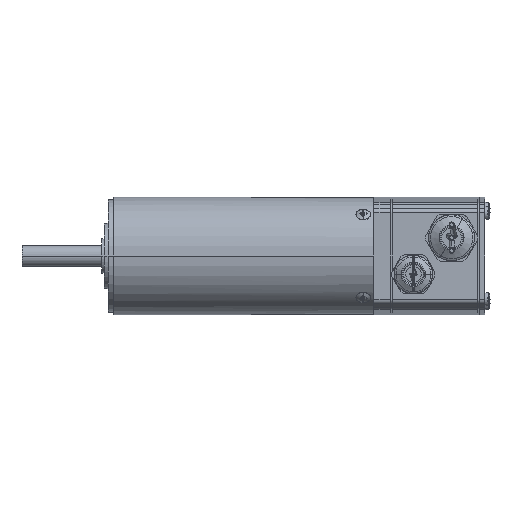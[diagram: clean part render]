
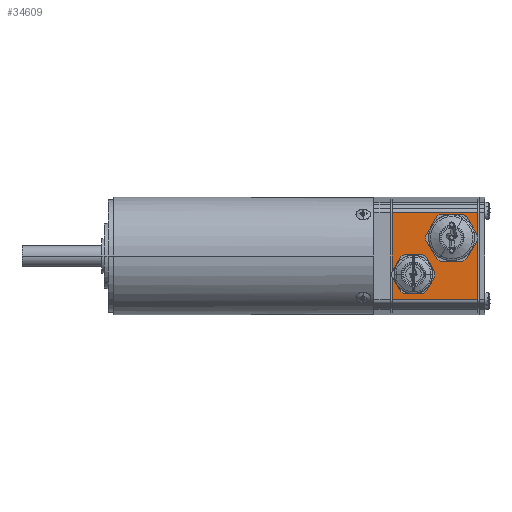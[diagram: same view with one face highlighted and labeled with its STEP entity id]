
A CAD part, front view. The second image highlights one B-rep face of the part: STEP entity #34609.
In plain terms, the highlighted planar face has unit normal (0, -1, 0).
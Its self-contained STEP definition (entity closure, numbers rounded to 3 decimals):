
#1523=DIRECTION('',(1.,0.,0.));
#1524=VECTOR('',#1523,32.6);
#1525=CARTESIAN_POINT('',(141.55,-37.5,16.5));
#1526=LINE('',#1525,#1524);
#1530=CARTESIAN_POINT('',(164.15,-37.5,7.));
#1531=DIRECTION('',(0.,-1.,0.));
#1532=DIRECTION('',(0.,0.,-1.));
#1533=AXIS2_PLACEMENT_3D('',#1530,#1531,#1532);
#1538=CARTESIAN_POINT('',(164.15,-37.5,7.));
#1539=DIRECTION('',(0.,-1.,0.));
#1540=DIRECTION('',(0.,0.,1.));
#1541=AXIS2_PLACEMENT_3D('',#1538,#1539,#1540);
#1546=CARTESIAN_POINT('',(149.55,-37.5,-7.));
#1547=DIRECTION('',(0.,-1.,0.));
#1548=DIRECTION('',(0.,0.,1.));
#1549=AXIS2_PLACEMENT_3D('',#1546,#1547,#1548);
#1554=CARTESIAN_POINT('',(149.55,-37.5,-7.));
#1555=DIRECTION('',(0.,-1.,0.));
#1556=DIRECTION('',(0.,0.,-1.));
#1557=AXIS2_PLACEMENT_3D('',#1554,#1555,#1556);
#1622=DIRECTION('',(0.,0.,-1.));
#1623=VECTOR('',#1622,33.);
#1624=CARTESIAN_POINT('',(141.55,-37.5,16.5));
#1625=LINE('',#1624,#1623);
#1760=DIRECTION('',(1.,0.,0.));
#1761=VECTOR('',#1760,32.6);
#1762=CARTESIAN_POINT('',(141.55,-37.5,-16.5));
#1763=LINE('',#1762,#1761);
#1842=DIRECTION('',(0.,0.,-1.));
#1843=VECTOR('',#1842,33.);
#1844=CARTESIAN_POINT('',(174.15,-37.5,16.5));
#1845=LINE('',#1844,#1843);
#31213=CARTESIAN_POINT('',(141.55,-37.5,16.5));
#31214=VERTEX_POINT('',#31213);
#31215=CARTESIAN_POINT('',(141.55,-37.5,-16.5));
#31216=VERTEX_POINT('',#31215);
#31249=CARTESIAN_POINT('',(174.15,-37.5,16.5));
#31250=VERTEX_POINT('',#31249);
#31251=CARTESIAN_POINT('',(174.15,-37.5,-16.5));
#31252=VERTEX_POINT('',#31251);
#31465=CARTESIAN_POINT('',(164.15,-37.5,-0.25));
#31466=CARTESIAN_POINT('',(164.15,-37.5,14.25));
#31467=VERTEX_POINT('',#31465);
#31468=VERTEX_POINT('',#31466);
#32781=CARTESIAN_POINT('',(149.55,-37.5,-1.45));
#32782=CARTESIAN_POINT('',(149.55,-37.5,-12.55));
#32783=VERTEX_POINT('',#32781);
#32784=VERTEX_POINT('',#32782);
#34583=CARTESIAN_POINT('',(141.55,-37.5,16.5));
#34584=DIRECTION('',(0.,-1.,0.));
#34585=DIRECTION('',(0.,0.,-1.));
#34586=AXIS2_PLACEMENT_3D('',#34583,#34584,#34585);
#34587=PLANE('',#34586);
#34589=ORIENTED_EDGE('',*,*,#34588,.F.);
#34591=ORIENTED_EDGE('',*,*,#34590,.T.);
#34593=ORIENTED_EDGE('',*,*,#34592,.T.);
#34595=ORIENTED_EDGE('',*,*,#34594,.F.);
#34596=EDGE_LOOP('',(#34589,#34591,#34593,#34595));
#34597=FACE_OUTER_BOUND('',#34596,.F.);
#34599=ORIENTED_EDGE('',*,*,#34598,.T.);
#34601=ORIENTED_EDGE('',*,*,#34600,.T.);
#34602=EDGE_LOOP('',(#34599,#34601));
#34603=FACE_BOUND('',#34602,.F.);
#34605=ORIENTED_EDGE('',*,*,#34604,.T.);
#34606=ORIENTED_EDGE('',*,*,#34566,.T.);
#34607=EDGE_LOOP('',(#34605,#34606));
#34608=FACE_BOUND('',#34607,.F.);
#34609=ADVANCED_FACE('',(#34597,#34603,#34608),#34587,.T.);
#1534=CIRCLE('',#1533,7.25);
#1542=CIRCLE('',#1541,7.25);
#1550=CIRCLE('',#1549,5.55);
#1558=CIRCLE('',#1557,5.55);
#34566=EDGE_CURVE('',#32784,#32783,#1558,.T.);
#34588=EDGE_CURVE('',#31214,#31216,#1625,.T.);
#34590=EDGE_CURVE('',#31214,#31250,#1526,.T.);
#34592=EDGE_CURVE('',#31250,#31252,#1845,.T.);
#34594=EDGE_CURVE('',#31216,#31252,#1763,.T.);
#34598=EDGE_CURVE('',#31467,#31468,#1534,.T.);
#34600=EDGE_CURVE('',#31468,#31467,#1542,.T.);
#34604=EDGE_CURVE('',#32783,#32784,#1550,.T.);
